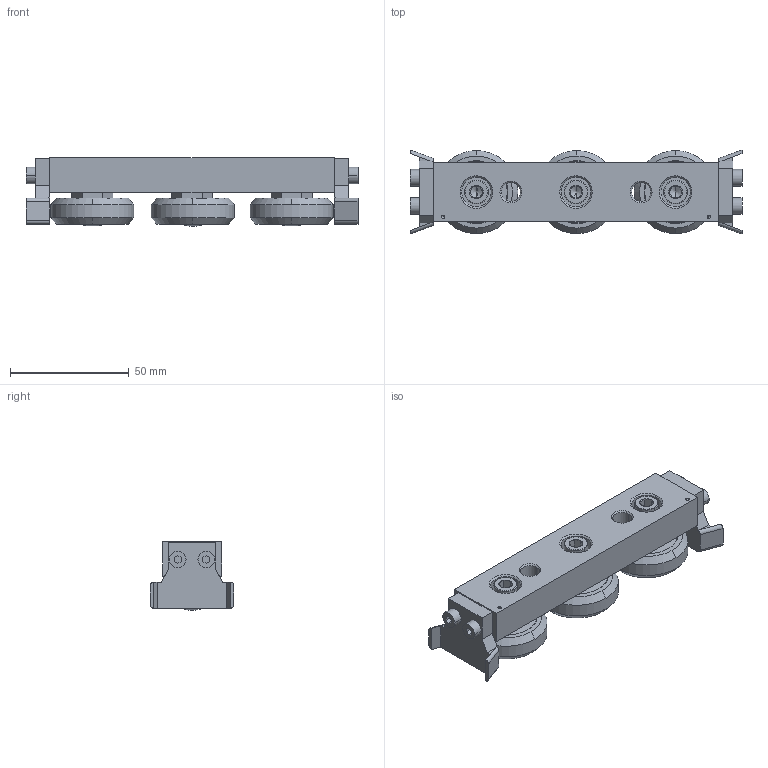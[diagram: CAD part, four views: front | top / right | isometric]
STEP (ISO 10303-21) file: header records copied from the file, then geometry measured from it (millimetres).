
FILE_DESCRIPTION (( 'STEP AP203' ), '1' );
FILE_NAME ('L1943.CSW43-120-2RSU.step', '2019-03-13T08:15:53', ( '' ), ( '' ), 'SwSTEP 2.0', 'SolidWorks 2017', '' );
FILE_SCHEMA (( 'CONFIG_CONTROL_DESIGN' ));
Length unit declared in the file: millimetre
Products named in the file (6): L1943.CSW43-120-2RSU; Part1_L1943.CSW43-120-2RSU; Part4; Part7; Part5; Part8
Assembly tree (9 placements, depth 2):
  L1943.CSW43-120-2RSU
    Part1_L1943.CSW43-120-2RSU
    Part8  x3
    Part4  x2
    Part5
    Part7  x2
Bounding box: 140 x 35.4 x 28.88 mm (x, y, z)
Volume: 78630.8 mm3; surface area: 28155.3 mm2
Topology: 9 solids, 9 shells, 330 faces, 739 edges, 452 vertices
Faces by surface type: plane 161, cone 97, cylinder 62, torus 6, bspline 4
Entity records: 6494 total; most frequent: CARTESIAN_POINT 1228, DIRECTION 1005, ORIENTED_EDGE 882, EDGE_CURVE 441, AXIS2_PLACEMENT_3D 380, VERTEX_POINT 279, VECTOR 245, LINE 245
